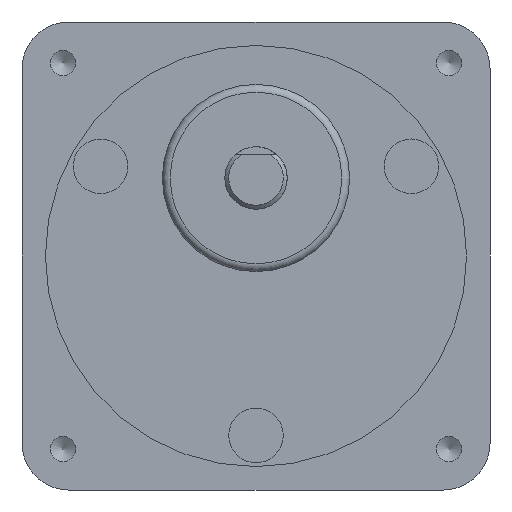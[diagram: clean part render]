
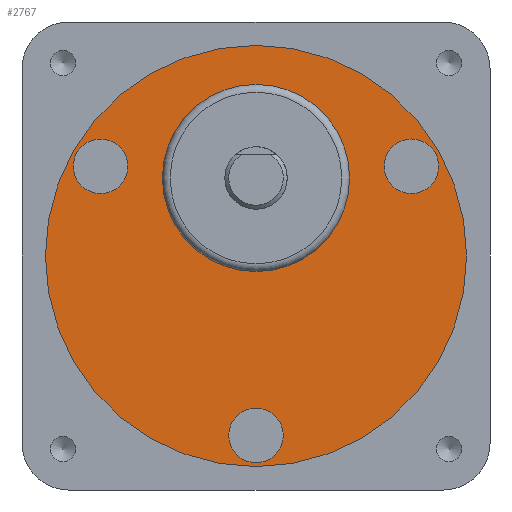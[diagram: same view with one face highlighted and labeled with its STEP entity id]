
A CAD part, front view. The second image highlights one B-rep face of the part: STEP entity #2767.
In plain terms, the highlighted planar face has unit normal (0, -1, 0).
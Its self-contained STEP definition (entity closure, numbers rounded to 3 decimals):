
#1447=CARTESIAN_POINT('',(18.169,-3.5,14.531));
#1448=VERTEX_POINT('',#1447);
#1449=CARTESIAN_POINT('',(19.919,-3.5,11.5));
#1450=DIRECTION('',(0.0,1.0,0.0));
#1451=DIRECTION('',(0.5,0.0,-0.866));
#1452=AXIS2_PLACEMENT_3D('',#1449,#1450,#1451);
#1453=CIRCLE('',#1452,3.5);
#1454=EDGE_CURVE('',#1448,#1448,#1453,.T.);
#1484=CARTESIAN_POINT('',(-21.669,-3.5,8.469));
#1485=VERTEX_POINT('',#1484);
#1486=CARTESIAN_POINT('',(-19.919,-3.5,11.5));
#1487=DIRECTION('',(0.0,1.,0.0));
#1488=DIRECTION('',(0.5,0.0,0.866));
#1489=AXIS2_PLACEMENT_3D('',#1486,#1487,#1488);
#1490=CIRCLE('',#1489,3.5);
#1491=EDGE_CURVE('',#1485,#1485,#1490,.T.);
#1521=CARTESIAN_POINT('',(3.5,-3.5,-23.));
#1522=VERTEX_POINT('',#1521);
#1523=CARTESIAN_POINT('',(0.,-3.5,-23.));
#1524=DIRECTION('',(0.0,1.0,0.0));
#1525=DIRECTION('',(-1.0,0.0,0.0));
#1526=AXIS2_PLACEMENT_3D('',#1523,#1524,#1525);
#1527=CIRCLE('',#1526,3.5);
#1528=EDGE_CURVE('',#1522,#1522,#1527,.T.);
#2716=CARTESIAN_POINT('',(27.,-3.5,0.));
#2717=VERTEX_POINT('',#2716);
#2718=CARTESIAN_POINT('',(0.,-3.5,0.));
#2719=DIRECTION('',(0.0,-1.0,0.0));
#2720=DIRECTION('',(-1.0,0.0,0.0));
#2721=AXIS2_PLACEMENT_3D('',#2718,#2719,#2720);
#2722=CIRCLE('',#2721,27.0);
#2723=EDGE_CURVE('',#2717,#2717,#2722,.T.);
#2739=CARTESIAN_POINT('',(0.,-3.5,0.));
#2740=DIRECTION('',(0.0,1.0,0.0));
#2741=DIRECTION('',(0.0,0.0,1.0));
#2742=AXIS2_PLACEMENT_3D('',#2739,#2740,#2741);
#2743=PLANE('',#2742);
#2744=ORIENTED_EDGE('',*,*,#2723,.T.);
#2745=EDGE_LOOP('',(#2744));
#2746=FACE_OUTER_BOUND('',#2745,.T.);
#2747=ORIENTED_EDGE('',*,*,#1454,.T.);
#2748=EDGE_LOOP('',(#2747));
#2749=FACE_BOUND('',#2748,.T.);
#2750=ORIENTED_EDGE('',*,*,#1491,.T.);
#2751=EDGE_LOOP('',(#2750));
#2752=FACE_BOUND('',#2751,.T.);
#2753=ORIENTED_EDGE('',*,*,#1528,.T.);
#2754=EDGE_LOOP('',(#2753));
#2755=FACE_BOUND('',#2754,.T.);
#2756=CARTESIAN_POINT('',(12.,-3.5,10.0));
#2757=VERTEX_POINT('',#2756);
#2758=CARTESIAN_POINT('',(0.,-3.5,10.));
#2759=DIRECTION('',(0.0,-1.0,0.0));
#2760=DIRECTION('',(-1.0,0.0,0.0));
#2761=AXIS2_PLACEMENT_3D('',#2758,#2759,#2760);
#2762=CIRCLE('',#2761,12.);
#2763=EDGE_CURVE('',#2757,#2757,#2762,.T.);
#2764=ORIENTED_EDGE('',*,*,#2763,.F.);
#2765=EDGE_LOOP('',(#2764));
#2766=FACE_BOUND('',#2765,.T.);
#2767=ADVANCED_FACE('',(#2746,#2749,#2752,#2755,#2766),#2743,.F.);
